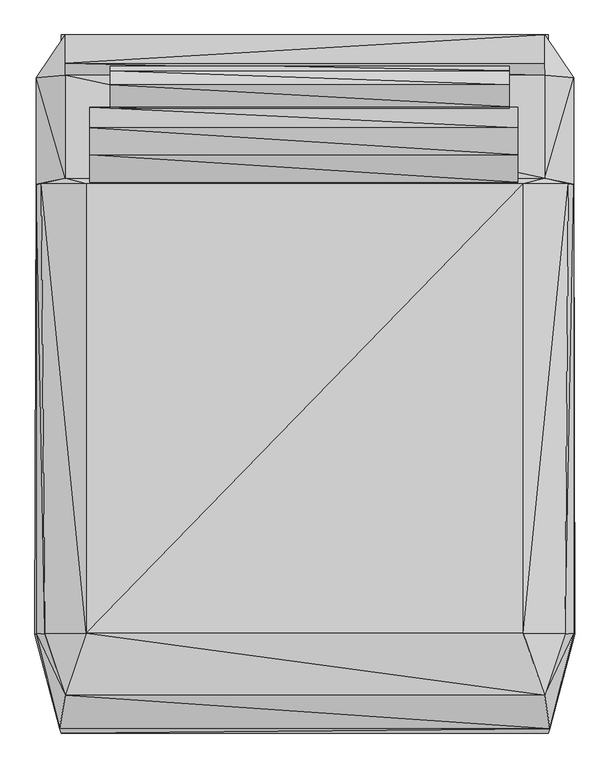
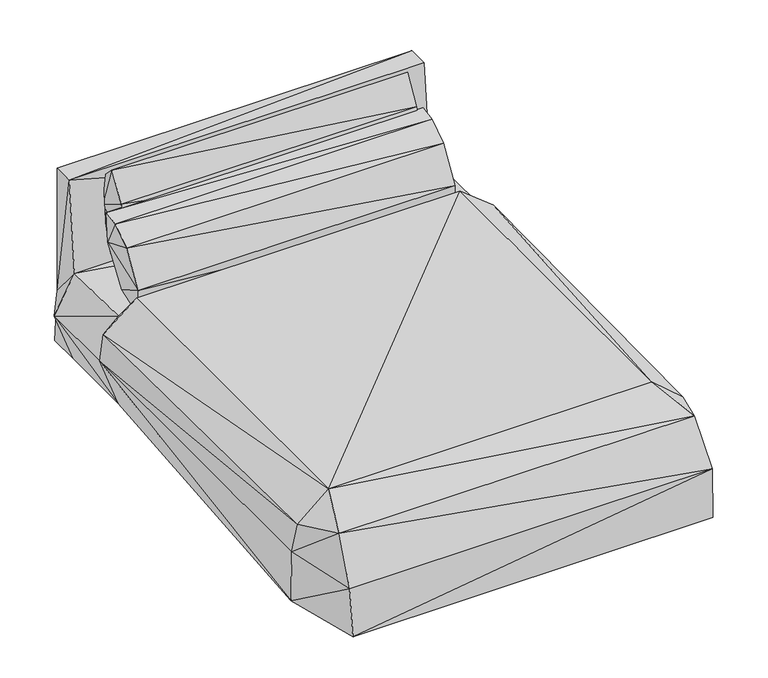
"""IFC4 building model written with IfcOpenShell, lengths in millimetres: geographic element geometry, TempEnscape AssetDefinition - Bed 014 164x220 cm (64x86 in) : TempEnscape AssetDefinition - Bed 014 164x220 cm (64x86 in)."""

from ifc_helpers import new_model, si_unit, origin, place, context, project, spatial, faceted_brep, source, transform, mapped, element, save


def geographic_element_2527c1db(model_context):
    return source(origin(), model_context, "Body", "Brep", [
        faceted_brep([(764.7357461, -1164.7000488, 255.816273), (-759.167015, -1178.0725011, 49.5387147), (759.1542842, -1178.0725011, 49.5387147), (-764.7484769, -1164.7000488, 255.816273), (-841.9336447, -869.2928248, 49.5387147), (841.9209139, -869.2928248, 49.5387147), (-747.8641605, -1059.7776227, 434.0820037), (747.8514297, -1059.7776227, 434.0820037), (838.2381318, -868.179447, 267.4972328), (-838.2508084, -868.179447, 267.4972328), (-811.7286661, -867.5423643, 379.6653098), (-681.9846101, -866.9061484, 491.8334138), (681.9728002, -866.9061484, 491.8334138), (811.7159895, -867.5423643, 379.6653098), (838.2381318, 534.6563676, 267.4972328), (821.9545475, 534.7509007, 379.6653098), (681.9728002, 534.8454338, 491.8334138), (-821.9672783, 534.7509007, 379.6653098), (-681.9846101, 534.8454338, 491.8334138), (747.8514297, 552.0978605, 424.5314517), (759.1542842, 534.4909753, 49.5387147), (838.2381318, 865.4300777, 267.4972328), (-747.8641605, 552.0978605, 424.5314517), (-747.8641605, 873.878195, 419.0599895), (747.8514297, 873.878195, 419.0599895), (-838.2508084, 534.6563676, 267.4972328), (-838.2508084, 865.4300777, 267.4972328), (-747.8632396, 999.6231486, 267.4972328), (-747.6187537, 911.8540655, 812.440346), (747.8514297, 999.6231486, 267.4972328), (747.6060229, 911.8540655, 812.440346), (-747.6178327, 999.6231486, 812.440346), (747.6060229, 999.6231486, 812.440346), (759.1542842, 864.9447355, 49.5387147), (759.1542842, 999.6231486, 49.5387147), (-759.167015, 534.4909753, 49.5387147), (-759.167015, 864.9447355, 49.5387147), (-759.167015, 999.6231486, 49.5387147)], [[[0, 1, 2]], [[1, 0, 3]], [[3, 4, 1]], [[4, 2, 1]], [[2, 4, 5]], [[5, 0, 2]], [[0, 6, 3]], [[6, 0, 7]], [[0, 5, 8]], [[8, 7, 0]], [[4, 3, 9]], [[6, 9, 3]], [[9, 6, 10]], [[10, 6, 11]], [[7, 11, 6]], [[11, 7, 12]], [[7, 8, 13]], [[12, 7, 13]], [[14, 13, 8]], [[5, 14, 8]], [[13, 14, 15]], [[15, 12, 13]], [[16, 11, 12]], [[12, 15, 16]], [[17, 11, 18]], [[11, 17, 10]], [[11, 16, 18]], [[19, 18, 16]], [[19, 16, 15]], [[14, 19, 15]], [[14, 5, 20]], [[20, 21, 14]], [[19, 14, 21]], [[18, 19, 22]], [[19, 23, 22]], [[23, 19, 24]], [[24, 19, 21]], [[17, 18, 22]], [[25, 10, 17]], [[22, 25, 17]], [[26, 22, 23]], [[25, 22, 26]], [[26, 23, 27]], [[28, 27, 23]], [[24, 28, 23]], [[29, 24, 21]], [[29, 30, 24]], [[28, 24, 30]], [[27, 28, 31]], [[32, 28, 30]], [[28, 32, 31]], [[30, 29, 32]], [[29, 31, 32]], [[29, 33, 34]], [[33, 29, 21]], [[34, 27, 29]], [[31, 29, 27]], [[33, 35, 36]], [[35, 33, 20]], [[21, 20, 33]], [[36, 34, 33]], [[34, 36, 37]], [[27, 34, 37]], [[27, 36, 26]], [[36, 27, 37]], [[35, 26, 36]], [[4, 25, 35]], [[26, 35, 25]], [[20, 4, 35]], [[4, 20, 5]], [[25, 4, 9]], [[10, 25, 9]]]),
        faceted_brep([(-670.7653456, 763.6569311, 600.1569189), (664.5240481, 773.8863879, 724.6648704), (664.5240481, 763.6569311, 600.1569189), (-670.7653456, 773.8863879, 724.6648704), (664.5240481, 709.452896, 712.1913764), (-670.7653456, 709.452896, 712.1913764), (664.5240481, 626.0200923, 655.9877901), (-670.7653456, 626.0200923, 655.9877901), (-670.7653456, 662.8580443, 449.0431539), (-670.7653456, 540.4059847, 517.8411227), (664.5240481, 540.4059847, 517.8411227), (664.5240481, 537.638413, 406.6337079), (664.5240481, 662.8580443, 449.0431539), (-670.7653456, 537.638413, 406.6337079)], [[[0, 1, 2]], [[3, 4, 1]], [[1, 0, 3]], [[4, 2, 1]], [[5, 6, 4]], [[4, 3, 5]], [[6, 2, 4]], [[0, 5, 3]], [[6, 5, 7]], [[0, 7, 5]], [[0, 8, 9]], [[2, 8, 0]], [[0, 9, 7]], [[7, 10, 6]], [[10, 7, 9]], [[10, 2, 6]], [[9, 11, 10]], [[11, 12, 10]], [[10, 12, 2]], [[11, 9, 13]], [[9, 8, 13]], [[8, 2, 12]], [[12, 13, 8]], [[13, 12, 11]]]),
        faceted_brep([(-607.3597996, 912.5575651, 653.0593767), (638.0564587, 888.0694827, 803.386025), (638.0564587, 912.55659, 653.0602977), (-607.3607205, 888.0694827, 803.386025), (638.0564587, 844.0004255, 850.0), (-607.3607205, 844.0004255, 850.0), (638.0564587, 775.7378282, 738.297248), (-607.3597996, 775.7378282, 738.297248), (-607.3597996, 853.4755678, 470.4709912), (-607.3607205, 705.1129869, 554.3700679), (638.0564587, 705.1120659, 554.3700679), (638.0564587, 708.3922292, 391.6035134), (638.0564587, 853.4755678, 470.4709912), (-607.3607205, 708.3931501, 391.6035134)], [[[0, 1, 2]], [[3, 4, 1]], [[1, 0, 3]], [[4, 2, 1]], [[5, 6, 4]], [[4, 3, 5]], [[6, 2, 4]], [[0, 5, 3]], [[6, 5, 7]], [[0, 7, 5]], [[0, 8, 9]], [[2, 8, 0]], [[0, 9, 7]], [[7, 10, 6]], [[10, 7, 9]], [[10, 2, 6]], [[9, 11, 10]], [[11, 12, 10]], [[10, 12, 2]], [[11, 9, 13]], [[9, 8, 13]], [[8, 2, 12]], [[12, 13, 8]], [[13, 12, 11]]]),
    ])


if __name__ == "__main__":
    model = new_model("IFC4")
    model_context = context("Model", 3, world=origin())
    ifc_project = project(units=[si_unit("LENGTHUNIT", "METRE", prefix="MILLI")], contexts=[model_context])
    site = spatial("IfcSite", under=ifc_project)
    building = spatial("IfcBuilding", under=site)
    placement = place(None, origin())
    geographic_element_shape = geographic_element_2527c1db(model_context)
    element("IfcGeographicElement", 1, ObjectType="TempEnscape AssetDefinition - Bed 014 164x220 cm (64x86 in) : TempEnscape AssetDefinition - Bed 014 164x220 cm (64x86 in)", at=placement, inside=building, context=model_context, shape_type="MappedRepresentation", body=[
        mapped(geographic_element_shape, transform((0.0, 0.0, 0.0), x_axis=(1.0, 0.0, 0.0), y_axis=(0.0, 1.0, 0.0), z_axis=(0.0, 0.0, 1.0))),
    ])
    save(model, "model.ifc")
